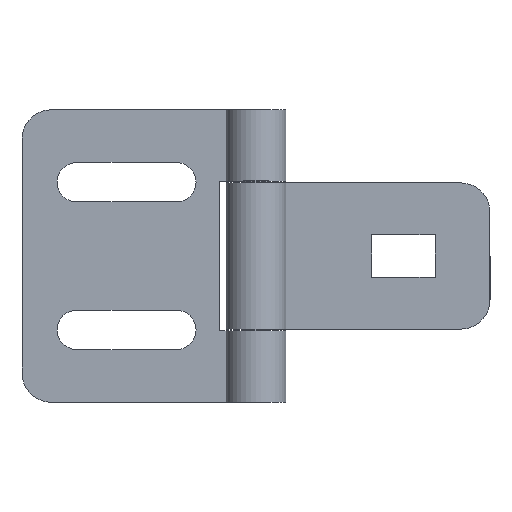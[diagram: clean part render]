
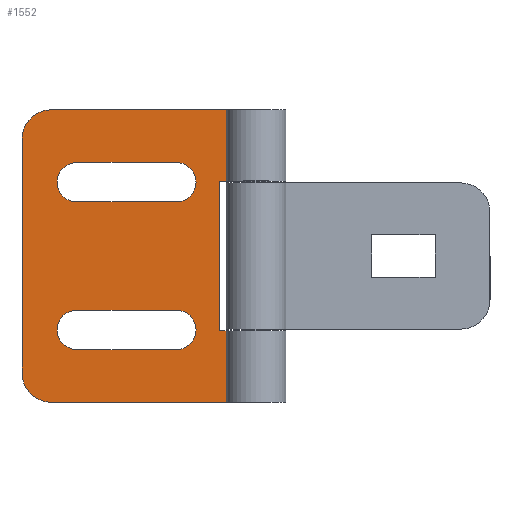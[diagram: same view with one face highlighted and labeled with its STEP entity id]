
A CAD part, top view. The second image highlights one B-rep face of the part: STEP entity #1552.
In plain terms, the highlighted planar face has unit normal (0, 0, 1) as drawn and (0, 1, 0) by its records, which use the part's own axes.
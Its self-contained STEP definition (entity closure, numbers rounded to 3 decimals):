
#15 = CARTESIAN_POINT ( 'NONE',  ( -28.326, 26.012, -10.25 ) ) ;
#18 = DIRECTION ( 'NONE',  ( -1., 0., 0. ) ) ;
#78 = ORIENTED_EDGE ( 'NONE', *, *, #1711, .F. ) ;
#84 = EDGE_CURVE ( 'NONE', #1942, #1435, #476, .T. ) ;
#87 = LINE ( 'NONE', #534, #867 ) ;
#89 = LINE ( 'NONE', #431, #1765 ) ;
#104 = EDGE_CURVE ( 'NONE', #988, #1248, #87, .T. ) ;
#106 = CARTESIAN_POINT ( 'NONE',  ( -52.226, 26.012, 20. ) ) ;
#119 = DIRECTION ( 'NONE',  ( 0., -1., 0. ) ) ;
#142 = CIRCLE ( 'NONE', #1235, 4. ) ;
#154 = EDGE_CURVE ( 'NONE', #1403, #772, #2163, .T. ) ;
#157 = ORIENTED_EDGE ( 'NONE', *, *, #940, .F. ) ;
#163 = ORIENTED_EDGE ( 'NONE', *, *, #623, .T. ) ;
#207 = CARTESIAN_POINT ( 'NONE',  ( -24.226, 26.012, -20. ) ) ;
#250 = DIRECTION ( 'NONE',  ( 1., 0., 0. ) ) ;
#251 = AXIS2_PLACEMENT_3D ( 'NONE', #1838, #737, #894 ) ;
#259 = CARTESIAN_POINT ( 'NONE',  ( -48.726, 26.012, -7.4 ) ) ;
#260 = CARTESIAN_POINT ( 'NONE',  ( -35.126, 26.012, 12.8 ) ) ;
#270 = CARTESIAN_POINT ( 'NONE',  ( -28.326, 26.012, 10.25 ) ) ;
#299 = CARTESIAN_POINT ( 'NONE',  ( -48.726, 26.012, -10.1 ) ) ;
#303 = CARTESIAN_POINT ( 'NONE',  ( -35.126, 26.012, -10.1 ) ) ;
#322 = AXIS2_PLACEMENT_3D ( 'NONE', #303, #1470, #471 ) ;
#327 = FACE_BOUND ( 'NONE', #1404, .T. ) ;
#338 = VECTOR ( 'NONE', #1926, 1000. ) ;
#368 = DIRECTION ( 'NONE',  ( 0., -1., 0. ) ) ;
#384 = LINE ( 'NONE', #1265, #2125 ) ;
#398 = ORIENTED_EDGE ( 'NONE', *, *, #832, .T. ) ;
#400 = CARTESIAN_POINT ( 'NONE',  ( -48.726, 26.012, 10.1 ) ) ;
#405 = VECTOR ( 'NONE', #1037, 1000. ) ;
#427 = CARTESIAN_POINT ( 'NONE',  ( -52.226, 26.012, 16. ) ) ;
#431 = CARTESIAN_POINT ( 'NONE',  ( -35.126, 26.012, 7.4 ) ) ;
#439 = ORIENTED_EDGE ( 'NONE', *, *, #104, .T. ) ;
#452 = PLANE ( 'NONE',  #1176 ) ;
#456 = EDGE_CURVE ( 'NONE', #988, #2173, #658, .T. ) ;
#464 = DIRECTION ( 'NONE',  ( 0., 0., -1. ) ) ;
#471 = DIRECTION ( 'NONE',  ( 0., 0., -1. ) ) ;
#476 = CIRCLE ( 'NONE', #2138, 2.7 ) ;
#505 = LINE ( 'NONE', #1805, #1789 ) ;
#534 = CARTESIAN_POINT ( 'NONE',  ( -56.226, 26.012, 20. ) ) ;
#551 = DIRECTION ( 'NONE',  ( 0., 0., -1. ) ) ;
#564 = DIRECTION ( 'NONE',  ( -1., 0., 0. ) ) ;
#574 = ORIENTED_EDGE ( 'NONE', *, *, #1730, .T. ) ;
#577 = EDGE_LOOP ( 'NONE', ( #163, #1315, #78, #1840, #1233, #439, #1079, #157, #1977, #1580 ) ) ;
#583 = CARTESIAN_POINT ( 'NONE',  ( -35.126, 26.012, -12.8 ) ) ;
#594 = CARTESIAN_POINT ( 'NONE',  ( -35.126, 26.012, 12.8 ) ) ;
#596 = DIRECTION ( 'NONE',  ( 1., 0., 0. ) ) ;
#610 = DIRECTION ( 'NONE',  ( 1., 0., 0. ) ) ;
#623 = EDGE_CURVE ( 'NONE', #853, #966, #890, .T. ) ;
#654 = ORIENTED_EDGE ( 'NONE', *, *, #84, .T. ) ;
#657 = CARTESIAN_POINT ( 'NONE',  ( -52.226, 26.012, -20. ) ) ;
#658 = CIRCLE ( 'NONE', #251, 4. ) ;
#681 = EDGE_CURVE ( 'NONE', #2052, #2173, #1667, .T. ) ;
#706 = DIRECTION ( 'NONE',  ( 0., 0., 1. ) ) ;
#732 = CIRCLE ( 'NONE', #1292, 2.7 ) ;
#737 = DIRECTION ( 'NONE',  ( 0., -1., 0. ) ) ;
#767 = VECTOR ( 'NONE', #1061, 1000. ) ;
#772 = VERTEX_POINT ( 'NONE', #259 ) ;
#787 = FACE_BOUND ( 'NONE', #1311, .T. ) ;
#793 = ORIENTED_EDGE ( 'NONE', *, *, #1928, .T. ) ;
#794 = VECTOR ( 'NONE', #250, 1000. ) ;
#832 = EDGE_CURVE ( 'NONE', #1000, #1138, #1225, .T. ) ;
#853 = VERTEX_POINT ( 'NONE', #2100 ) ;
#866 = CARTESIAN_POINT ( 'NONE',  ( -48.726, 26.012, -12.8 ) ) ;
#867 = VECTOR ( 'NONE', #706, 1000. ) ;
#890 = LINE ( 'NONE', #1215, #405 ) ;
#894 = DIRECTION ( 'NONE',  ( -1., 0., 0. ) ) ;
#906 = CIRCLE ( 'NONE', #2109, 2.7 ) ;
#921 = VERTEX_POINT ( 'NONE', #15 ) ;
#940 = EDGE_CURVE ( 'NONE', #1220, #1518, #1039, .T. ) ;
#961 = VERTEX_POINT ( 'NONE', #1188 ) ;
#966 = VERTEX_POINT ( 'NONE', #1825 ) ;
#988 = VERTEX_POINT ( 'NONE', #2048 ) ;
#1000 = VERTEX_POINT ( 'NONE', #866 ) ;
#1018 = CARTESIAN_POINT ( 'NONE',  ( -24.226, 26.012, 20. ) ) ;
#1037 = DIRECTION ( 'NONE',  ( 0., 0., -1. ) ) ;
#1039 = LINE ( 'NONE', #1018, #1513 ) ;
#1061 = DIRECTION ( 'NONE',  ( 0., 0., 1. ) ) ;
#1079 = ORIENTED_EDGE ( 'NONE', *, *, #1384, .F. ) ;
#1095 = DIRECTION ( 'NONE',  ( 1., 0., 0. ) ) ;
#1123 = CARTESIAN_POINT ( 'NONE',  ( -28.326, 26.012, -20. ) ) ;
#1138 = VERTEX_POINT ( 'NONE', #1203 ) ;
#1176 = AXIS2_PLACEMENT_3D ( 'NONE', #1786, #119, #1282 ) ;
#1178 = LINE ( 'NONE', #1902, #767 ) ;
#1188 = CARTESIAN_POINT ( 'NONE',  ( -48.726, 26.012, 7.4 ) ) ;
#1203 = CARTESIAN_POINT ( 'NONE',  ( -35.126, 26.012, -12.8 ) ) ;
#1210 = DIRECTION ( 'NONE',  ( 0., 0., 1. ) ) ;
#1215 = CARTESIAN_POINT ( 'NONE',  ( -29.226, 26.012, 10.25 ) ) ;
#1220 = VERTEX_POINT ( 'NONE', #1436 ) ;
#1225 = LINE ( 'NONE', #583, #794 ) ;
#1233 = ORIENTED_EDGE ( 'NONE', *, *, #456, .F. ) ;
#1235 = AXIS2_PLACEMENT_3D ( 'NONE', #427, #1592, #596 ) ;
#1248 = VERTEX_POINT ( 'NONE', #1281 ) ;
#1262 = VERTEX_POINT ( 'NONE', #270 ) ;
#1264 = FACE_OUTER_BOUND ( 'NONE', #577, .T. ) ;
#1265 = CARTESIAN_POINT ( 'NONE',  ( -18.226, 26.012, -10.25 ) ) ;
#1281 = CARTESIAN_POINT ( 'NONE',  ( -56.226, 26.012, 16. ) ) ;
#1282 = DIRECTION ( 'NONE',  ( 1., 0., 0. ) ) ;
#1292 = AXIS2_PLACEMENT_3D ( 'NONE', #299, #1463, #464 ) ;
#1305 = EDGE_CURVE ( 'NONE', #1262, #1220, #1178, .T. ) ;
#1311 = EDGE_LOOP ( 'NONE', ( #793, #574, #1971, #654 ) ) ;
#1315 = ORIENTED_EDGE ( 'NONE', *, *, #2003, .T. ) ;
#1348 = DIRECTION ( 'NONE',  ( 0., 0., -1. ) ) ;
#1384 = EDGE_CURVE ( 'NONE', #1518, #1248, #142, .T. ) ;
#1388 = VERTEX_POINT ( 'NONE', #1751 ) ;
#1392 = CARTESIAN_POINT ( 'NONE',  ( -18.226, 26.012, 10.25 ) ) ;
#1403 = VERTEX_POINT ( 'NONE', #1757 ) ;
#1404 = EDGE_LOOP ( 'NONE', ( #1501, #1664, #398, #1442 ) ) ;
#1425 = DIRECTION ( 'NONE',  ( -1., 0., 0. ) ) ;
#1435 = VERTEX_POINT ( 'NONE', #260 ) ;
#1436 = CARTESIAN_POINT ( 'NONE',  ( -28.326, 26.012, 20. ) ) ;
#1442 = ORIENTED_EDGE ( 'NONE', *, *, #2072, .T. ) ;
#1463 = DIRECTION ( 'NONE',  ( 0., -1., 0. ) ) ;
#1470 = DIRECTION ( 'NONE',  ( 0., -1., 0. ) ) ;
#1501 = ORIENTED_EDGE ( 'NONE', *, *, #154, .T. ) ;
#1502 = DIRECTION ( 'NONE',  ( -1., 0., 0. ) ) ;
#1513 = VECTOR ( 'NONE', #1502, 1000. ) ;
#1518 = VERTEX_POINT ( 'NONE', #106 ) ;
#1530 = CARTESIAN_POINT ( 'NONE',  ( -35.126, 26.012, 10.1 ) ) ;
#1552 = ADVANCED_FACE ( 'NONE', ( #327, #787, #1264 ), #452, .F. ) ;
#1557 = DIRECTION ( 'NONE',  ( 0., -1., 0. ) ) ;
#1580 = ORIENTED_EDGE ( 'NONE', *, *, #1768, .T. ) ;
#1590 = EDGE_CURVE ( 'NONE', #772, #1000, #732, .T. ) ;
#1592 = DIRECTION ( 'NONE',  ( 0., -1., 0. ) ) ;
#1636 = VECTOR ( 'NONE', #564, 1000. ) ;
#1664 = ORIENTED_EDGE ( 'NONE', *, *, #1590, .T. ) ;
#1667 = LINE ( 'NONE', #207, #338 ) ;
#1711 = EDGE_CURVE ( 'NONE', #2052, #921, #505, .T. ) ;
#1730 = EDGE_CURVE ( 'NONE', #1388, #961, #906, .T. ) ;
#1751 = CARTESIAN_POINT ( 'NONE',  ( -48.726, 26.012, 12.8 ) ) ;
#1757 = CARTESIAN_POINT ( 'NONE',  ( -35.126, 26.012, -7.4 ) ) ;
#1763 = CARTESIAN_POINT ( 'NONE',  ( -35.126, 26.012, 7.4 ) ) ;
#1765 = VECTOR ( 'NONE', #1095, 1000. ) ;
#1768 = EDGE_CURVE ( 'NONE', #1262, #853, #2099, .T. ) ;
#1786 = CARTESIAN_POINT ( 'NONE',  ( -28.326, 26.012, 20. ) ) ;
#1789 = VECTOR ( 'NONE', #1210, 1000. ) ;
#1805 = CARTESIAN_POINT ( 'NONE',  ( -28.326, 26.012, 20. ) ) ;
#1806 = VECTOR ( 'NONE', #1425, 1000. ) ;
#1825 = CARTESIAN_POINT ( 'NONE',  ( -29.226, 26.012, -10.25 ) ) ;
#1838 = CARTESIAN_POINT ( 'NONE',  ( -52.226, 26.012, -16. ) ) ;
#1840 = ORIENTED_EDGE ( 'NONE', *, *, #681, .T. ) ;
#1902 = CARTESIAN_POINT ( 'NONE',  ( -28.326, 26.012, 20. ) ) ;
#1926 = DIRECTION ( 'NONE',  ( -1., 0., 0. ) ) ;
#1928 = EDGE_CURVE ( 'NONE', #1435, #1388, #1932, .T. ) ;
#1932 = LINE ( 'NONE', #594, #1806 ) ;
#1942 = VERTEX_POINT ( 'NONE', #1763 ) ;
#1953 = EDGE_CURVE ( 'NONE', #961, #1942, #89, .T. ) ;
#1971 = ORIENTED_EDGE ( 'NONE', *, *, #1953, .T. ) ;
#1977 = ORIENTED_EDGE ( 'NONE', *, *, #1305, .F. ) ;
#2003 = EDGE_CURVE ( 'NONE', #966, #921, #384, .T. ) ;
#2005 = CIRCLE ( 'NONE', #322, 2.7 ) ;
#2031 = CARTESIAN_POINT ( 'NONE',  ( -35.126, 26.012, -7.4 ) ) ;
#2048 = CARTESIAN_POINT ( 'NONE',  ( -56.226, 26.012, -16. ) ) ;
#2052 = VERTEX_POINT ( 'NONE', #1123 ) ;
#2072 = EDGE_CURVE ( 'NONE', #1138, #1403, #2005, .T. ) ;
#2099 = LINE ( 'NONE', #1392, #1636 ) ;
#2100 = CARTESIAN_POINT ( 'NONE',  ( -29.226, 26.012, 10.25 ) ) ;
#2109 = AXIS2_PLACEMENT_3D ( 'NONE', #400, #1557, #551 ) ;
#2120 = VECTOR ( 'NONE', #18, 1000. ) ;
#2125 = VECTOR ( 'NONE', #610, 1000. ) ;
#2138 = AXIS2_PLACEMENT_3D ( 'NONE', #1530, #368, #1348 ) ;
#2163 = LINE ( 'NONE', #2031, #2120 ) ;
#2173 = VERTEX_POINT ( 'NONE', #657 ) ;
